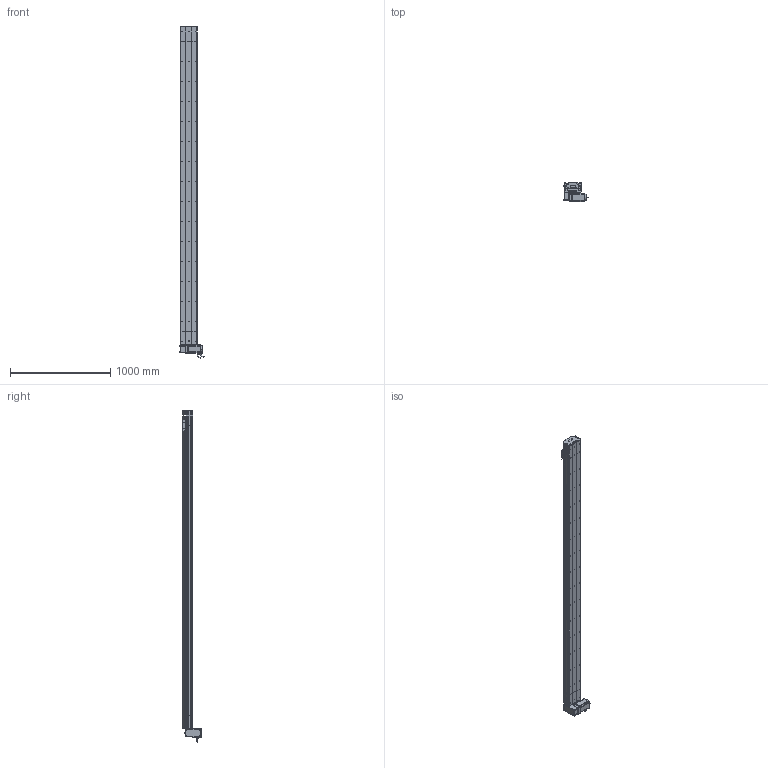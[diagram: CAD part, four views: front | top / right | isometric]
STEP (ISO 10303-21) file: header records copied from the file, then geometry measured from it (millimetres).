
FILE_DESCRIPTION (( 'STEP AP214' ), '1' );
FILE_NAME ('D17 TBN RU S2900.STEP', '2010-06-30T13:19:35', ( 'Conseil Régional Haute-Normandie' ), ( 'Conseil Régional Haute-Normandie' ), 'SwSTEP 2.0', 'SolidWorks 2010', '' );
FILE_SCHEMA (( 'AUTOMOTIVE_DESIGN' ));
Length unit declared in the file: millimetre
Products named in the file (40): Couroie+ rail D17 Course 2900 ; corp D17B 2900_Default; vis M5 L16_Default; Plaque racord D17_Default; Head RU D17B_Default; couvercle D17B course L2900_Default; corpl head D17 _Default; Conecteur2_Default; codeur 90BLDC125-640; vis M5 L70_Default; Conecteur_Default; couvercle D17B head_Default; corps 90BLDC125A-640; avant 90BLDC125A-640; Moteur motionking 90BLDC125A-640; plaque de  bout head D17B RU_Default; cache D17_Default; Arbre+rail head D17B; vis M5 L5_Default; couroie head D17_Default; poulie head_Default; guide D17; Chariot D17 TBN; chariot D17 TBN; vis M5 L25_Default; Couroie tail D17B_Default; poulie tail_Default; plaque de  bout tail D17B_Default; vis M5 L12_Default; vis M5 L8 90°_Default; couvercle D17B_Default; Rail D17B; tete d''axe poulie D17B; corp tail D17B+100_Default; cache arbre D17_Default; Vis M5 L16-2_Default; Tail D17B+100_Default; Renvoi RU_Default; course 2900 D17B_Default; D17 TBN RU S2900
Assembly tree (66 placements, depth 4):
  D17 TBN RU S2900
    Head RU D17B_Default
      vis M5 L12_Default  x8
      couvercle D17B head_Default
      Plaque racord D17_Default
      vis M5 L70_Default  x4
      vis M5 L5_Default  x4
      corpl head D17 _Default
      Vis M5 L16-2_Default  x4
      plaque de  bout head D17B RU_Default
      vis M5 L16_Default  x2
      couroie head D17_Default
      Moteur motionking 90BLDC125A-640
        Conecteur_Default
        codeur 90BLDC125-640
        Conecteur2_Default
        corps 90BLDC125A-640
        avant 90BLDC125A-640
      poulie head_Default
      vis M5 L25_Default  x2
      cache D17_Default  x2
      cache arbre D17_Default
      Renvoi RU_Default
      Arbre+rail head D17B
    course 2900 D17B_Default
      Couroie+ rail D17 Course 2900 
      couvercle D17B course L2900_Default
      corp D17B 2900_Default
    Tail D17B+100_Default
      Couroie tail D17B_Default
      plaque de  bout tail D17B_Default
      tete d''axe poulie D17B
      corp tail D17B+100_Default
      vis M5 L12_Default  x4
      couvercle D17B_Default
      poulie tail_Default
      Rail D17B
      vis M5 L8 90°_Default  x2
      vis M5 L25_Default  x2
    chariot D17 TBN
      guide D17  x2
      Chariot D17 TBN
Bounding box: 245.2 x 188.65 x 3317.95 mm (x, y, z)
Volume: 18800094.8 mm3; surface area: 5489519.3 mm2
Topology: 89 solids, 89 shells, 2655 faces, 6843 edges, 4410 vertices
Faces by surface type: plane 1537, cylinder 821, bspline 136, cone 80, torus 77, sphere 4
Entity records: 86613 total; most frequent: CARTESIAN_POINT 25633, ORIENTED_EDGE 10858, DIRECTION 10238, EDGE_CURVE 5429, VERTEX_POINT 3554, LINE 3540, VECTOR 3540, AXIS2_PLACEMENT_3D 3349
